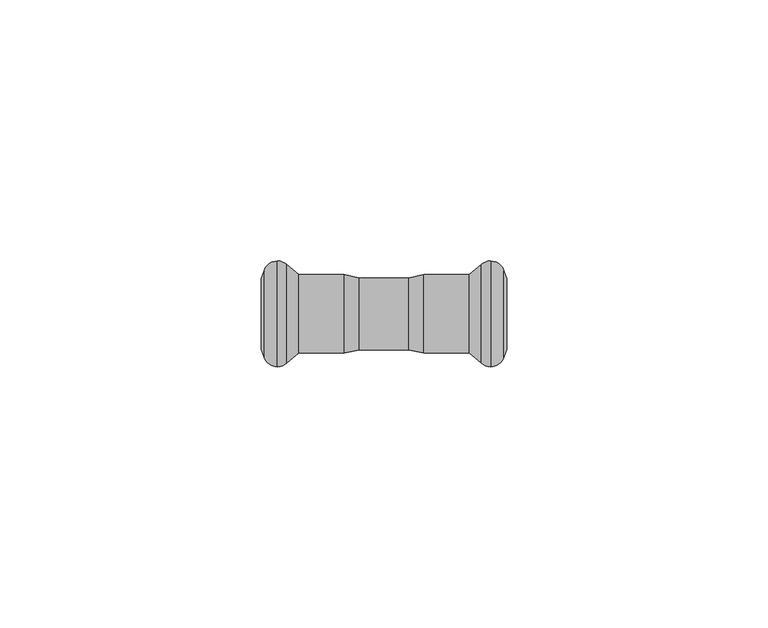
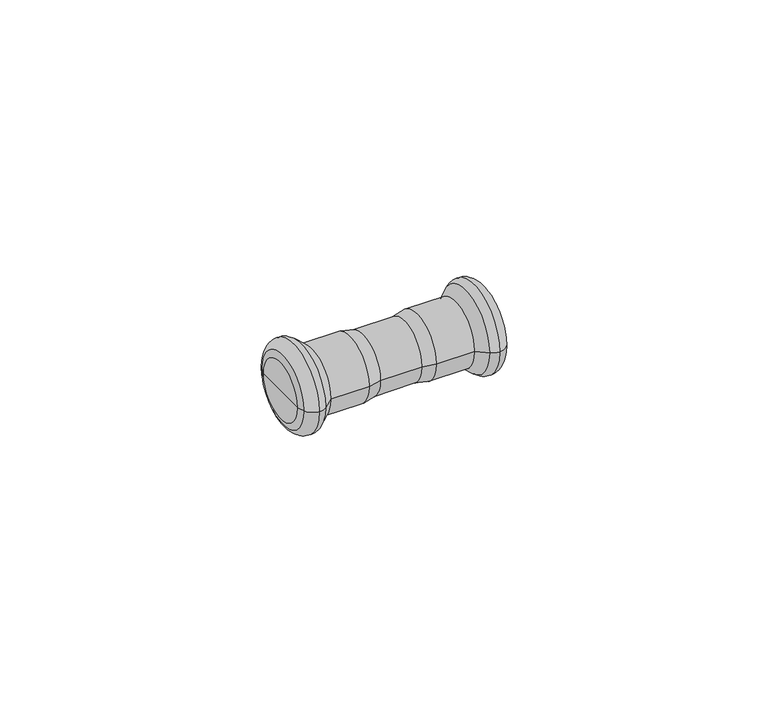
"""IFC4 building model written with IfcOpenShell, lengths in millimetres: pipe fitting geometry, KAN-therm Steel mufa : KAN-therm Steel mufa."""

from ifc_helpers import new_model, si_unit, point, frame, origin, place, context, project, spatial, polyline, circle_curve, ellipse_curve, trimmed, source, transform, mapped, element, save
from ifc_brep_helpers import plane_surface, cylinder_surface, revolved_surface, advanced_brep


def pipe_fitting_d84e530c(model_context):
    return source(origin(), model_context, "Body", "AdvancedBrep", [
        advanced_brep(
        [(18.5922627, -9.4370225, 0.0), (18.5922627, 9.4370225, 0.0), (20.3921278, 10.125, 0.0), (20.3921278, -10.125, 0.0), (16.2838092, -7.5, 0.0), (16.2838092, 7.5, 0.0), (7.6180407, -7.5, 0.0), (7.6180407, 7.5, 0.0), (4.7, -6.9, 0.0), (4.7, 6.9, 0.0), (-4.7, -6.9, 0.0), (-4.7, 6.9, 0.0), (-7.6180407, -7.5, 0.0), (-7.6180407, 7.5, 0.0), (-16.2838092, -7.5, 0.0), (-16.2838092, 7.5, 0.0), (-18.5922627, -9.4370225, 0.0), (-18.5922627, 9.4370225, 0.0), (-20.3921278, -10.125, 0.0), (-20.3921278, 10.125, 0.0), (-22.932052, -8.3484544, 0.0), (-22.932052, 8.3484544, 0.0), (-23.5, -6.7880302, 0.0), (-23.5, 6.7880302, 0.0), (-23.5, 0.0, 0.0), (23.5, -6.7880302, 0.0), (23.5, 6.7880302, 0.0), (23.5, 0.0, 0.0), (22.932052, -8.3484544, 0.0), (22.932052, 8.3484544, 0.0)],
        [
            (0, 1, circle_curve(frame((18.5922627, 0.0, 0.0), z_axis=(1.0, 0.0, 0.0), x_axis=(0.0, 1.0, 0.0)), 9.4370225)),
            (1, 2, circle_curve(frame((20.3935049, 7.4230333, 0.0), z_axis=(0.0, 0.0, -1.0), x_axis=(1.0, 0.0, 0.0)), 2.701967)),
            (2, 3, circle_curve(frame((20.3921278, 0.0, 0.0), z_axis=(-1.0, 0.0, 0.0), x_axis=(0.0, 1.0, 0.0)), 10.125)),
            (3, 0, circle_curve(frame((20.3935049, -7.4230333, 0.0), z_axis=(0.0, 0.0, -1.0), x_axis=(1.0, 0.0, 0.0)), 2.701967)),
            (1, 0, circle_curve(frame((18.5922627, 0.0, 0.0), z_axis=(1.0, 0.0, 0.0), x_axis=(0.0, 1.0, 0.0)), 9.4370225)),
            (3, 2, circle_curve(frame((20.3921278, 0.0, 0.0), z_axis=(-1.0, 0.0, 0.0), x_axis=(0.0, 1.0, 0.0)), 10.125)),
            (4, 5, circle_curve(frame((16.2838092, 0.0, 0.0), z_axis=(1.0, 0.0, 0.0), x_axis=(0.0, 1.0, 0.0)), 7.5)),
            (5, 1),
            (0, 4),
            (5, 4, circle_curve(frame((16.2838092, 0.0, 0.0), z_axis=(1.0, 0.0, 0.0), x_axis=(0.0, 1.0, 0.0)), 7.5)),
            (6, 7, circle_curve(frame((7.6180407, 0.0, 0.0), z_axis=(1.0, 0.0, 0.0), x_axis=(0.0, 1.0, 0.0)), 7.5)),
            (7, 5),
            (4, 6),
            (7, 6, circle_curve(frame((7.6180407, 0.0, 0.0), z_axis=(1.0, 0.0, 0.0), x_axis=(0.0, 1.0, 0.0)), 7.5)),
            (8, 9, circle_curve(frame((4.7, 0.0, 0.0), z_axis=(1.0, 0.0, 0.0), x_axis=(0.0, 1.0, 0.0)), 6.9)),
            (9, 7),
            (6, 8),
            (9, 8, circle_curve(frame((4.7, 0.0, 0.0), z_axis=(1.0, 0.0, 0.0), x_axis=(0.0, 1.0, 0.0)), 6.9)),
            (10, 11, circle_curve(frame((-4.7, 0.0, 0.0), z_axis=(1.0, 0.0, 0.0), x_axis=(0.0, 1.0, 0.0)), 6.9)),
            (11, 9),
            (8, 10),
            (11, 10, circle_curve(frame((-4.7, 0.0, 0.0), z_axis=(1.0, 0.0, 0.0), x_axis=(0.0, 1.0, 0.0)), 6.9)),
            (12, 13, circle_curve(frame((-7.6180407, 0.0, 0.0), z_axis=(1.0, 0.0, 0.0), x_axis=(0.0, 1.0, 0.0)), 7.5)),
            (13, 11),
            (10, 12),
            (13, 12, circle_curve(frame((-7.6180407, 0.0, 0.0), z_axis=(1.0, 0.0, 0.0), x_axis=(0.0, 1.0, 0.0)), 7.5)),
            (14, 15, circle_curve(frame((-16.2838092, 0.0, 0.0), z_axis=(1.0, 0.0, 0.0), x_axis=(0.0, 1.0, 0.0)), 7.5)),
            (15, 13),
            (12, 14),
            (15, 14, circle_curve(frame((-16.2838092, 0.0, 0.0), z_axis=(1.0, 0.0, 0.0), x_axis=(0.0, 1.0, 0.0)), 7.5)),
            (16, 17, circle_curve(frame((-18.5922627, 0.0, 0.0), z_axis=(1.0, 0.0, 0.0), x_axis=(0.0, 1.0, 0.0)), 9.4370225)),
            (17, 15),
            (14, 16),
            (17, 16, circle_curve(frame((-18.5922627, 0.0, 0.0), z_axis=(1.0, 0.0, 0.0), x_axis=(0.0, 1.0, 0.0)), 9.4370225)),
            (18, 19, circle_curve(frame((-20.3921278, 0.0, 0.0), z_axis=(1.0, 0.0, 0.0), x_axis=(0.0, 1.0, 0.0)), 10.125)),
            (19, 17, circle_curve(frame((-20.3935049, 7.4230333, 0.0), z_axis=(0.0, 0.0, -1.0), x_axis=(1.0, 0.0, 0.0)), 2.701967)),
            (16, 18, circle_curve(frame((-20.3935049, -7.4230333, 0.0), z_axis=(0.0, 0.0, -1.0), x_axis=(1.0, 0.0, 0.0)), 2.701967)),
            (19, 18, circle_curve(frame((-20.3921278, 0.0, 0.0), z_axis=(1.0, 0.0, 0.0), x_axis=(0.0, 1.0, 0.0)), 10.125)),
            (20, 21, circle_curve(frame((-22.932052, 0.0, 0.0), z_axis=(1.0, 0.0, 0.0), x_axis=(0.0, 1.0, 0.0)), 8.3484544)),
            (21, 19, circle_curve(frame((-20.39488, 7.4249993, 0.0), z_axis=(0.0, 0.0, -1.0), x_axis=(1.0, 0.0, 0.0)), 2.7000021)),
            (18, 20, circle_curve(frame((-20.39488, -7.4249993, 0.0), z_axis=(0.0, 0.0, -1.0), x_axis=(1.0, 0.0, 0.0)), 2.7000021)),
            (21, 20, circle_curve(frame((-22.932052, 0.0, 0.0), z_axis=(1.0, 0.0, 0.0), x_axis=(0.0, 1.0, 0.0)), 8.3484544)),
            (22, 23, circle_curve(frame((-23.5, 0.0, 0.0), z_axis=(1.0, 0.0, 0.0), x_axis=(0.0, 1.0, 0.0)), 6.7880302)),
            (23, 21),
            (20, 22),
            (23, 22, circle_curve(frame((-23.5, 0.0, 0.0), z_axis=(1.0, 0.0, 0.0), x_axis=(0.0, 1.0, 0.0)), 6.7880302)),
            (24, 23),
            (22, 24),
            (25, 26, circle_curve(frame((23.5, 0.0, 0.0), z_axis=(1.0, 0.0, 0.0), x_axis=(0.0, 1.0, 0.0)), 6.7880302)),
            (26, 27),
            (27, 25),
            (26, 25, circle_curve(frame((23.5, 0.0, 0.0), z_axis=(1.0, 0.0, 0.0), x_axis=(0.0, 1.0, 0.0)), 6.7880302)),
            (28, 29, circle_curve(frame((22.932052, 0.0, 0.0), z_axis=(1.0, 0.0, 0.0), x_axis=(0.0, 1.0, 0.0)), 8.3484544)),
            (29, 26),
            (25, 28),
            (29, 28, circle_curve(frame((22.932052, 0.0, 0.0), z_axis=(1.0, 0.0, 0.0), x_axis=(0.0, 1.0, 0.0)), 8.3484544)),
            (2, 29, circle_curve(frame((20.39488, 7.4249993, 0.0), z_axis=(0.0, 0.0, -1.0), x_axis=(1.0, 0.0, 0.0)), 2.7000021)),
            (28, 3, circle_curve(frame((20.39488, -7.4249993, 0.0), z_axis=(0.0, 0.0, -1.0), x_axis=(1.0, 0.0, 0.0)), 2.7000021)),
        ],
        [
            revolved_surface(trimmed(ellipse_curve(frame((20.3935049, 7.4230333, 0.0), z_axis=(0.0, 0.0, 1.0), x_axis=(1.0, 0.0, 0.0)), 2.701967, 2.701967), [point((20.3921278, 10.125, 0.0))], [point((18.5922627, 9.4370225, 0.0))], True, "CARTESIAN"), (1337.242668, 0.0, 0.0), (-1.0, 0.0, 0.0)),
            revolved_surface(polyline([(18.5922627, 9.4370225, 0.0), (16.2838092, 7.5, 0.0)]), (1337.242668, 0.0, 0.0), (-1.0, 0.0, 0.0)),
            cylinder_surface(frame((1337.242668, 0.0, 0.0), z_axis=(-1.0, 0.0, 0.0), x_axis=(0.0, 1.0, 0.0)), 7.5),
            revolved_surface(polyline([(7.6180407, 7.5, 0.0), (4.7, 6.9, 0.0)]), (1337.242668, 0.0, 0.0), (-1.0, 0.0, 0.0)),
            cylinder_surface(frame((1337.242668, 0.0, 0.0), z_axis=(-1.0, 0.0, 0.0), x_axis=(0.0, 1.0, 0.0)), 6.9),
            revolved_surface(polyline([(-4.7, 6.9, 0.0), (-7.6180407, 7.5, 0.0)]), (1337.242668, 0.0, 0.0), (-1.0, 0.0, 0.0)),
            revolved_surface(polyline([(-16.2838092, 7.5, 0.0), (-18.5922627, 9.4370225, 0.0)]), (1337.242668, 0.0, 0.0), (-1.0, 0.0, 0.0)),
            revolved_surface(trimmed(ellipse_curve(frame((-20.3935049, 7.4230333, 0.0), z_axis=(0.0, 0.0, 1.0), x_axis=(1.0, 0.0, 0.0)), 2.701967, 2.701967), [point((-18.5922627, 9.4370225, 0.0))], [point((-20.3921278, 10.125, 0.0))], True, "CARTESIAN"), (1337.242668, 0.0, 0.0), (-1.0, 0.0, 0.0)),
            revolved_surface(trimmed(ellipse_curve(frame((-20.39488, 7.4249993, 0.0), z_axis=(0.0, 0.0, 1.0), x_axis=(1.0, 0.0, 0.0)), 2.7000021, 2.7000021), [point((-20.3921278, 10.125, 0.0))], [point((-22.932052, 8.3484544, 0.0))], True, "CARTESIAN"), (1337.242668, 0.0, 0.0), (-1.0, 0.0, 0.0)),
            revolved_surface(polyline([(-22.932052, 8.3484544, 0.0), (-23.5, 6.7880302, 0.0)]), (1337.242668, 0.0, 0.0), (-1.0, 0.0, 0.0)),
            plane_surface(frame((-23.5, 0.0, 0.0), z_axis=(-1.0, 0.0, 0.0), x_axis=(0.0, 1.0, 0.0))),
            plane_surface(frame((23.5, 0.0, 0.0), z_axis=(1.0, 0.0, 0.0), x_axis=(0.0, 1.0, 0.0))),
            revolved_surface(polyline([(23.5, 6.7880302, 0.0), (22.932052, 8.3484544, 0.0)]), (1337.242668, 0.0, 0.0), (-1.0, 0.0, 0.0)),
            revolved_surface(trimmed(ellipse_curve(frame((20.39488, 7.4249993, 0.0), z_axis=(0.0, 0.0, 1.0), x_axis=(1.0, 0.0, 0.0)), 2.7000021, 2.7000021), [point((22.932052, 8.3484544, 0.0))], [point((20.3921278, 10.125, 0.0))], True, "CARTESIAN"), (1337.242668, 0.0, 0.0), (-1.0, 0.0, 0.0)),
        ],
        [
            (0, [[1, 2, 3, 4]]),
            (0, [[5, -4, 6, -2]]),
            (1, [[7, 8, -1, 9]]),
            (1, [[10, -9, -5, -8]]),
            (2, [[11, 12, -7, 13]]),
            (2, [[14, -13, -10, -12]]),
            (3, [[15, 16, -11, 17]]),
            (3, [[18, -17, -14, -16]]),
            (4, [[19, 20, -15, 21]]),
            (4, [[22, -21, -18, -20]]),
            (5, [[23, 24, -19, 25]]),
            (5, [[26, -25, -22, -24]]),
            (2, [[27, 28, -23, 29]]),
            (2, [[30, -29, -26, -28]]),
            (6, [[31, 32, -27, 33]]),
            (6, [[34, -33, -30, -32]]),
            (7, [[35, 36, -31, 37]]),
            (7, [[38, -37, -34, -36]]),
            (8, [[39, 40, -35, 41]]),
            (8, [[42, -41, -38, -40]]),
            (9, [[43, 44, -39, 45]]),
            (9, [[46, -45, -42, -44]]),
            (10, [[47, -43, 48]]),
            (10, [[-48, -46, -47]]),
            (11, [[49, 50, 51]]),
            (11, [[52, -51, -50]]),
            (12, [[53, 54, -49, 55]]),
            (12, [[56, -55, -52, -54]]),
            (13, [[-3, 57, -53, 58]]),
            (13, [[-6, -58, -56, -57]]),
        ],
    ),
    ])


if __name__ == "__main__":
    model = new_model("IFC4")
    model_context = context("Model", 3, world=origin())
    ifc_project = project(units=[si_unit("LENGTHUNIT", "METRE", prefix="MILLI")], contexts=[model_context])
    site = spatial("IfcSite", under=ifc_project)
    building = spatial("IfcBuilding", under=site)
    placement = place(None, origin())
    pipe_fitting_shape = pipe_fitting_d84e530c(model_context)
    element("IfcPipeFitting", 1, ObjectType="KAN-therm Steel mufa : KAN-therm Steel mufa", at=placement, inside=building, context=model_context, shape_type="MappedRepresentation", body=[
        mapped(pipe_fitting_shape, transform((0.0, 0.0, 0.0), x_axis=(1.0, 0.0, 0.0), y_axis=(0.0, 1.0, 0.0), z_axis=(0.0, 0.0, 1.0))),
    ])
    save(model, "model.ifc")
